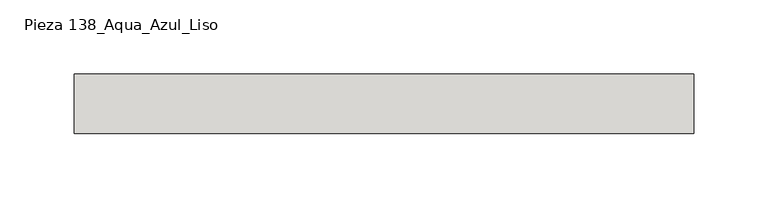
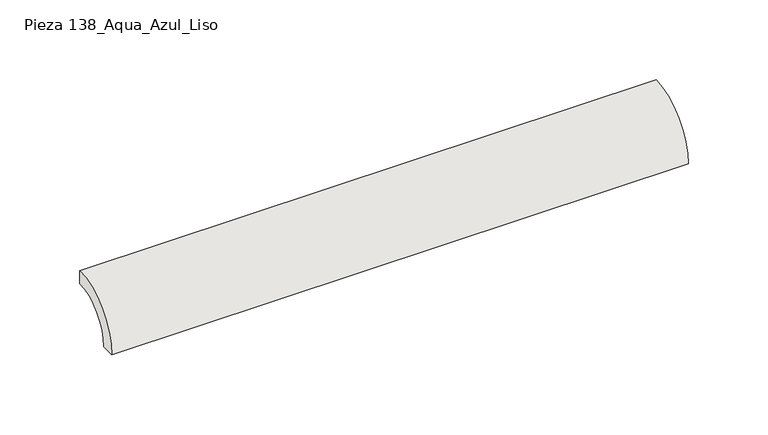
"""IFC4 building model written with IfcOpenShell, lengths in millimetres: slab geometry, ROSA GRES_138 : Pieza 138_Aqua_Azul_Liso."""

from ifc_helpers import new_model, si_unit, point, frame, frame_2d, origin, origin_2d, place, context, project, spatial, polyline, circle_curve, trimmed, segment, composite_curve, outline, extrude, source, transform, mapped, element, save


def pieza_138_aqua_azul_liso_9ae604b9(model_context):
    return source(origin(), model_context, "Body", "SweptSolid", [
        extrude(outline(composite_curve([segment(polyline([(0.0, 40.0), (0.0, 30.0265886)]), True, "CONTINUOUS"), segment(trimmed(circle_curve(frame_2d((-0.0044453, 0.0044453)), 30.0221435), [point((0.0, 30.0265886))], [point((-30.0265886, 0.0))], True, "CARTESIAN"), True, "CONTINUOUS"), segment(polyline([(-30.0265886, 0.0), (-40.0, 0.0)]), True, "CONTINUOUS"), segment(trimmed(circle_curve(origin_2d(), 40.0), [point((-40.0, 0.0))], [point((0.0, 40.0))], False, "CARTESIAN"), True, "CONTINUOUS")], self_intersect=False)), frame((0.0, 0.0, 0.0), z_axis=(1.0, 0.0, 0.0), x_axis=(0.0, 1.0, 0.0)), (0.0, 0.0, 1.0), 416.6549087),
    ])


if __name__ == "__main__":
    model = new_model("IFC4")
    model_context = context("Model", 3, world=origin())
    ifc_project = project(units=[si_unit("LENGTHUNIT", "METRE", prefix="MILLI")], contexts=[model_context])
    site = spatial("IfcSite", under=ifc_project)
    building = spatial("IfcBuilding", under=site)
    placement = place(None, origin())
    pieza_138_aqua_azul_liso_shape = pieza_138_aqua_azul_liso_9ae604b9(model_context)
    element("IfcSlab", 1, ObjectType="ROSA GRES_138 : Pieza 138_Aqua_Azul_Liso", at=placement, inside=building, context=model_context, shape_type="MappedRepresentation", body=[
        mapped(pieza_138_aqua_azul_liso_shape, transform((0.0, 0.0, 0.0), x_axis=(1.0, 0.0, 0.0), y_axis=(0.0, 1.0, 0.0), z_axis=(0.0, 0.0, 1.0))),
    ])
    save(model, "model.ifc")
